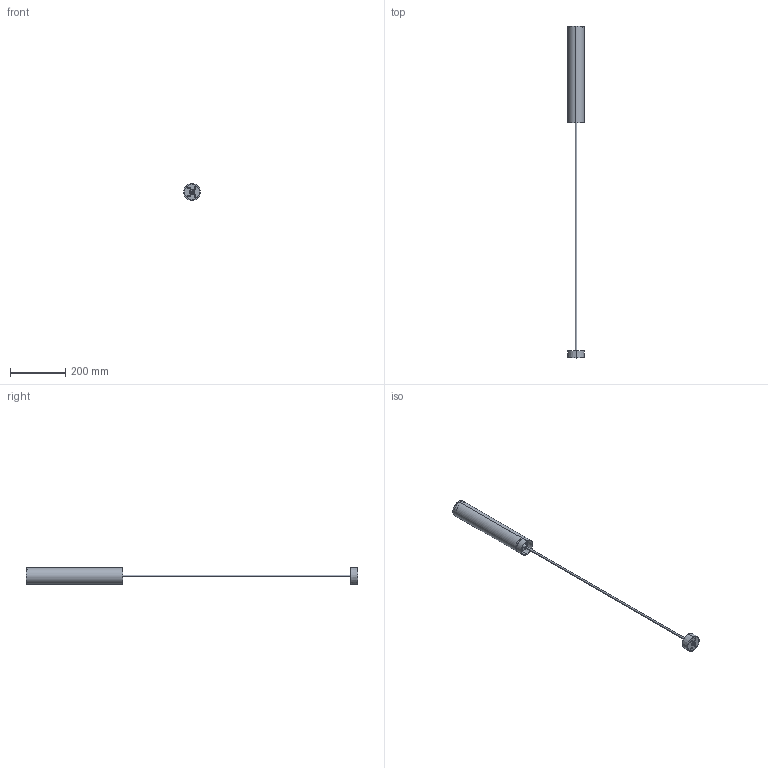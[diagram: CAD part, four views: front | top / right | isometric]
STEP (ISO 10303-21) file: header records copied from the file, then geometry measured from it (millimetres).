
FILE_DESCRIPTION(/* description */ (''),/* implementation_level */ '2;1');
FILE_NAME(/* name */ 'C:\Users\Franco Sartori E\Documents\FARO\DUPLICADO\Modelos\01_Digitalizados\2021\TRADING\0_STAN\03_Publicación\43754_43755\43756.stp',/* time_stamp */ '2020-11-20T10:26:16+01:00',/* author */ ('Franco Sartori E'),/* organization */ (''),/* preprocessor_version */ 'ST-DEVELOPER v18.1',/* originating_system */ 'AutoCAD Mechanical',/* authorisation */ '');
FILE_SCHEMA (('AUTOMOTIVE_DESIGN { 1 0 10303 214 3 1 1 }'));
Length unit declared in the file: millimetre
Products named in the file (3): Product; 43754_43755_STAN_suport - STAN-475746-_3D_; 43754_43755_STAN_lamp - STAN-475747-_3D_
Assembly tree (2 placements, depth 2):
  Product
    43754_43755_STAN_suport - STAN-475746-_3D_
    43754_43755_STAN_lamp - STAN-475747-_3D_
Bounding box: 60.59 x 1200 x 60.59 mm (x, y, z)
Volume: 201496.3 mm3; surface area: 191435.3 mm2
Topology: 11 solids, 11 shells, 164 faces, 386 edges, 238 vertices
Faces by surface type: cylinder 92, plane 50, cone 14, torus 4, bspline 4
Entity records: 5234 total; most frequent: CARTESIAN_POINT 1117, DIRECTION 914, ORIENTED_EDGE 772, EDGE_CURVE 386, AXIS2_PLACEMENT_3D 379, VERTEX_POINT 238, EDGE_LOOP 228, CIRCLE 214
